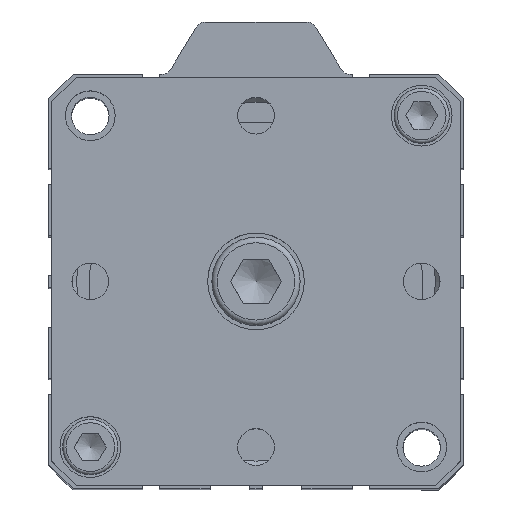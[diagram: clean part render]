
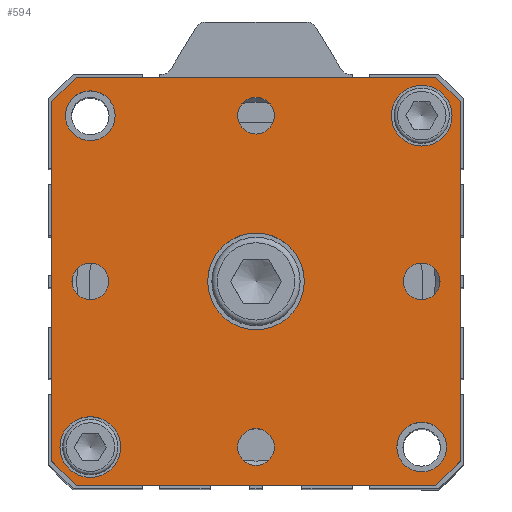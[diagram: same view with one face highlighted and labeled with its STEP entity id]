
A CAD part, top view. The second image highlights one B-rep face of the part: STEP entity #594.
In plain terms, the highlighted planar face has unit normal (0, 0, 1).
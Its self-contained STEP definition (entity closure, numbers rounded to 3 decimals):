
#196=CARTESIAN_POINT('',(32.859,35.684,155.5));
#197=VERTEX_POINT('',#196);
#198=CARTESIAN_POINT('',(37.359,31.184,155.5));
#199=VERTEX_POINT('',#198);
#200=CARTESIAN_POINT('',(32.859,35.684,155.5));
#201=DIRECTION('',(0.707,-0.707,0.0));
#202=VECTOR('',#201,6.364);
#203=LINE('',#200,#202);
#204=EDGE_CURVE('',#197,#199,#203,.T.);
#383=CARTESIAN_POINT('',(37.359,-33.816,155.5));
#384=VERTEX_POINT('',#383);
#385=CARTESIAN_POINT('',(37.359,31.184,155.5));
#386=DIRECTION('',(0.0,-1.0,0.0));
#387=VECTOR('',#386,65.);
#388=LINE('',#385,#387);
#389=EDGE_CURVE('',#199,#384,#388,.T.);
#406=CARTESIAN_POINT('',(32.859,-38.316,155.5));
#407=VERTEX_POINT('',#406);
#408=CARTESIAN_POINT('',(37.359,-33.816,155.5));
#409=DIRECTION('',(-0.707,-0.707,0.0));
#410=VECTOR('',#409,6.364);
#411=LINE('',#408,#410);
#412=EDGE_CURVE('',#384,#407,#411,.T.);
#430=CARTESIAN_POINT('',(-36.641,31.184,155.5));
#431=VERTEX_POINT('',#430);
#432=CARTESIAN_POINT('',(-32.141,35.684,155.5));
#433=VERTEX_POINT('',#432);
#434=CARTESIAN_POINT('',(-36.641,31.184,155.5));
#435=DIRECTION('',(0.707,0.707,0.0));
#436=VECTOR('',#435,6.364);
#437=LINE('',#434,#436);
#438=EDGE_CURVE('',#431,#433,#437,.T.);
#456=CARTESIAN_POINT('',(0.359,-1.316,155.5));
#457=DIRECTION('',(0.0,0.0,1.0));
#458=DIRECTION('',(1.0,0.0,0.0));
#459=AXIS2_PLACEMENT_3D('',#456,#457,#458);
#460=PLANE('',#459);
#461=ORIENTED_EDGE('',*,*,#204,.F.);
#462=CARTESIAN_POINT('',(-32.141,35.684,155.5));
#463=DIRECTION('',(1.0,0.0,0.0));
#464=VECTOR('',#463,65.0);
#465=LINE('',#462,#464);
#466=EDGE_CURVE('',#433,#197,#465,.T.);
#467=ORIENTED_EDGE('',*,*,#466,.F.);
#468=ORIENTED_EDGE('',*,*,#438,.F.);
#469=CARTESIAN_POINT('',(-36.641,-33.816,155.5));
#470=VERTEX_POINT('',#469);
#471=CARTESIAN_POINT('',(-36.641,-33.816,155.5));
#472=DIRECTION('',(0.0,1.0,0.0));
#473=VECTOR('',#472,65.0);
#474=LINE('',#471,#473);
#475=EDGE_CURVE('',#470,#431,#474,.T.);
#476=ORIENTED_EDGE('',*,*,#475,.F.);
#477=CARTESIAN_POINT('',(-32.141,-38.316,155.5));
#478=VERTEX_POINT('',#477);
#479=CARTESIAN_POINT('',(-32.141,-38.316,155.5));
#480=DIRECTION('',(-0.707,0.707,0.0));
#481=VECTOR('',#480,6.364);
#482=LINE('',#479,#481);
#483=EDGE_CURVE('',#478,#470,#482,.T.);
#484=ORIENTED_EDGE('',*,*,#483,.F.);
#485=CARTESIAN_POINT('',(32.859,-38.316,155.5));
#486=DIRECTION('',(-1.0,0.0,0.0));
#487=VECTOR('',#486,65.0);
#488=LINE('',#485,#487);
#489=EDGE_CURVE('',#407,#478,#488,.T.);
#490=ORIENTED_EDGE('',*,*,#489,.F.);
#491=ORIENTED_EDGE('',*,*,#412,.F.);
#492=ORIENTED_EDGE('',*,*,#389,.F.);
#493=EDGE_LOOP('',(#461,#467,#468,#476,#484,#490,#491,#492));
#494=FACE_OUTER_BOUND('',#493,.T.);
#495=CARTESIAN_POINT('',(9.109,-1.316,155.5));
#496=VERTEX_POINT('',#495);
#497=CARTESIAN_POINT('',(0.359,-1.316,155.5));
#498=DIRECTION('',(0.0,0.0,-1.0));
#499=DIRECTION('',(1.0,0.0,0.0));
#500=AXIS2_PLACEMENT_3D('',#497,#498,#499);
#501=CIRCLE('',#500,8.75);
#502=EDGE_CURVE('',#496,#496,#501,.T.);
#503=ORIENTED_EDGE('',*,*,#502,.T.);
#504=EDGE_LOOP('',(#503));
#505=FACE_BOUND('',#504,.T.);
#506=CARTESIAN_POINT('',(-24.141,-31.316,155.5));
#507=VERTEX_POINT('',#506);
#508=CARTESIAN_POINT('',(-29.641,-31.316,155.5));
#509=DIRECTION('',(0.0,0.0,-1.0));
#510=DIRECTION('',(1.0,0.0,0.0));
#511=AXIS2_PLACEMENT_3D('',#508,#509,#510);
#512=CIRCLE('',#511,5.5);
#513=EDGE_CURVE('',#507,#507,#512,.T.);
#514=ORIENTED_EDGE('',*,*,#513,.T.);
#515=EDGE_LOOP('',(#514));
#516=FACE_BOUND('',#515,.T.);
#517=CARTESIAN_POINT('',(35.859,28.684,155.5));
#518=VERTEX_POINT('',#517);
#519=CARTESIAN_POINT('',(30.359,28.684,155.5));
#520=DIRECTION('',(0.0,0.0,-1.0));
#521=DIRECTION('',(1.0,0.0,0.0));
#522=AXIS2_PLACEMENT_3D('',#519,#520,#521);
#523=CIRCLE('',#522,5.5);
#524=EDGE_CURVE('',#518,#518,#523,.T.);
#525=ORIENTED_EDGE('',*,*,#524,.T.);
#526=EDGE_LOOP('',(#525));
#527=FACE_BOUND('',#526,.T.);
#528=CARTESIAN_POINT('',(33.682,-1.316,155.5));
#529=VERTEX_POINT('',#528);
#530=CARTESIAN_POINT('',(30.359,-1.316,155.5));
#531=DIRECTION('',(0.0,0.0,-1.0));
#532=DIRECTION('',(1.0,0.0,0.0));
#533=AXIS2_PLACEMENT_3D('',#530,#531,#532);
#534=CIRCLE('',#533,3.324);
#535=EDGE_CURVE('',#529,#529,#534,.T.);
#536=ORIENTED_EDGE('',*,*,#535,.T.);
#537=EDGE_LOOP('',(#536));
#538=FACE_BOUND('',#537,.T.);
#539=CARTESIAN_POINT('',(3.682,-31.316,155.5));
#540=VERTEX_POINT('',#539);
#541=CARTESIAN_POINT('',(0.359,-31.316,155.5));
#542=DIRECTION('',(0.0,0.0,-1.0));
#543=DIRECTION('',(1.0,0.0,0.0));
#544=AXIS2_PLACEMENT_3D('',#541,#542,#543);
#545=CIRCLE('',#544,3.324);
#546=EDGE_CURVE('',#540,#540,#545,.T.);
#547=ORIENTED_EDGE('',*,*,#546,.T.);
#548=EDGE_LOOP('',(#547));
#549=FACE_BOUND('',#548,.T.);
#550=CARTESIAN_POINT('',(-26.318,-1.316,155.5));
#551=VERTEX_POINT('',#550);
#552=CARTESIAN_POINT('',(-29.641,-1.316,155.5));
#553=DIRECTION('',(0.0,0.0,-1.0));
#554=DIRECTION('',(1.0,0.0,0.0));
#555=AXIS2_PLACEMENT_3D('',#552,#553,#554);
#556=CIRCLE('',#555,3.324);
#557=EDGE_CURVE('',#551,#551,#556,.T.);
#558=ORIENTED_EDGE('',*,*,#557,.T.);
#559=EDGE_LOOP('',(#558));
#560=FACE_BOUND('',#559,.T.);
#561=CARTESIAN_POINT('',(3.682,28.684,155.5));
#562=VERTEX_POINT('',#561);
#563=CARTESIAN_POINT('',(0.359,28.684,155.5));
#564=DIRECTION('',(0.0,0.0,-1.0));
#565=DIRECTION('',(1.0,0.0,0.0));
#566=AXIS2_PLACEMENT_3D('',#563,#564,#565);
#567=CIRCLE('',#566,3.324);
#568=EDGE_CURVE('',#562,#562,#567,.T.);
#569=ORIENTED_EDGE('',*,*,#568,.T.);
#570=EDGE_LOOP('',(#569));
#571=FACE_BOUND('',#570,.T.);
#572=CARTESIAN_POINT('',(34.859,-31.316,155.5));
#573=VERTEX_POINT('',#572);
#574=CARTESIAN_POINT('',(30.359,-31.316,155.5));
#575=DIRECTION('',(0.0,0.0,-1.0));
#576=DIRECTION('',(-1.0,0.0,0.0));
#577=AXIS2_PLACEMENT_3D('',#574,#575,#576);
#578=CIRCLE('',#577,4.5);
#579=EDGE_CURVE('',#573,#573,#578,.T.);
#580=ORIENTED_EDGE('',*,*,#579,.T.);
#581=EDGE_LOOP('',(#580));
#582=FACE_BOUND('',#581,.T.);
#583=CARTESIAN_POINT('',(-25.141,28.684,155.5));
#584=VERTEX_POINT('',#583);
#585=CARTESIAN_POINT('',(-29.641,28.684,155.5));
#586=DIRECTION('',(0.0,0.0,-1.0));
#587=DIRECTION('',(-1.0,0.0,0.0));
#588=AXIS2_PLACEMENT_3D('',#585,#586,#587);
#589=CIRCLE('',#588,4.5);
#590=EDGE_CURVE('',#584,#584,#589,.T.);
#591=ORIENTED_EDGE('',*,*,#590,.T.);
#592=EDGE_LOOP('',(#591));
#593=FACE_BOUND('',#592,.T.);
#594=ADVANCED_FACE('',(#494,#505,#516,#527,#538,#549,#560,#571,#582,#593),#460,.T.);
